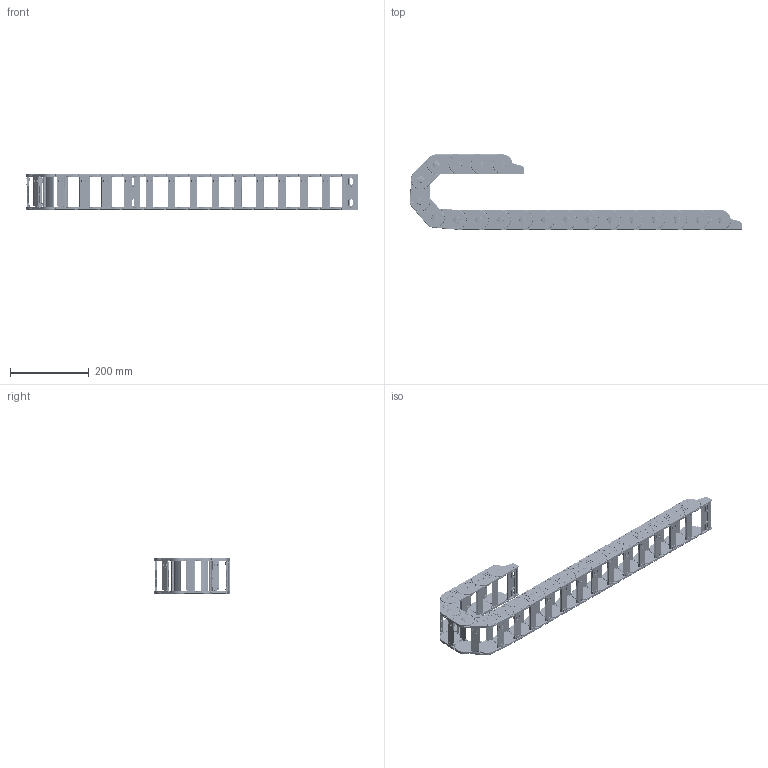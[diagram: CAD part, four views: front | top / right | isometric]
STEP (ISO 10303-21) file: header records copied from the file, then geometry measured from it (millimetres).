
FILE_DESCRIPTION (( 'STEP AP203' ), '1' );
FILE_NAME ('5F-J35Q.3.75W-3D莉こ假蚾芞.STEP', '2017-12-16T02:12:37', ( 'china' ), ( 'china' ), 'SwSTEP 2.0', 'SolidWorks 2016', '' );
FILE_SCHEMA (( 'CONFIG_CONTROL_DESIGN' ));
Length unit declared in the file: millimetre
Products named in the file (4): 35-3X75-楷諦誧蚚芞; J35Q.3.75-訇諉芛-囀F; J35Q.3.75-訇諉芛-俋F; 5F-J35Q.3.75W-3D莉こ假蚾芞
Assembly tree (21 placements, depth 2):
  5F-J35Q.3.75W-3D莉こ假蚾芞
    35-3X75-楷諦誧蚚芞  x19
    J35Q.3.75-訇諉芛-囀F
    J35Q.3.75-訇諉芛-俋F
Bounding box: 843.95 x 191.2 x 91.65 mm (x, y, z)
Volume: 1091761.4 mm3; surface area: 713789.4 mm2
Topology: 21 solids, 21 shells, 27803 faces, 74186 edges, 48132 vertices
Faces by surface type: plane 12346, bspline 9347, cylinder 4658, torus 1172, sphere 190, cone 90
Entity records: 90108 total; most frequent: CARTESIAN_POINT 44620, ORIENTED_EDGE 10288, DIRECTION 7490, EDGE_CURVE 5144, VERTEX_POINT 3328, LINE 3018, VECTOR 3018, AXIS2_PLACEMENT_3D 2236
